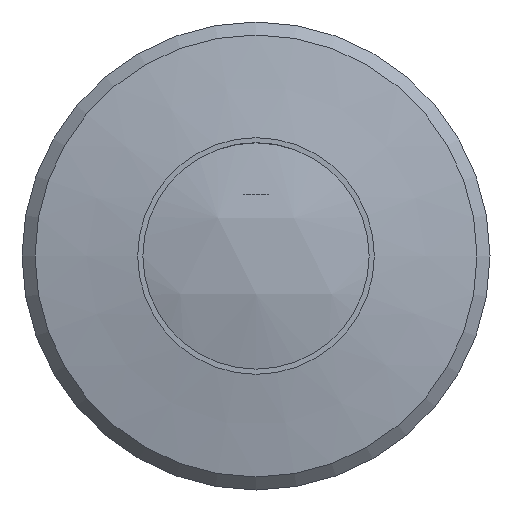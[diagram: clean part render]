
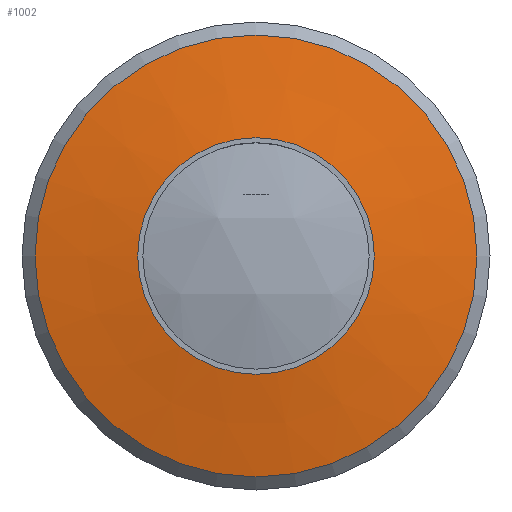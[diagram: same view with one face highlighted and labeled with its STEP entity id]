
A CAD part, left-side view. The second image highlights one B-rep face of the part: STEP entity #1002.
In plain terms, the highlighted conical face has half-angle 80 degrees and reference radius 6.525 mm.
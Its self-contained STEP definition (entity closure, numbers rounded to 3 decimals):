
#975=CARTESIAN_POINT('',(-1.152,0.,0.0));
#976=DIRECTION('',(1.0,0.,0.0));
#977=DIRECTION('',(0.0,1.0,0.0));
#978=AXIS2_PLACEMENT_3D('',#975,#976,#977);
#979=CONICAL_SURFACE('',#978,6.525,80.);
#980=CARTESIAN_POINT('',(-0.804,8.5,0.0));
#981=VERTEX_POINT('',#980);
#982=CARTESIAN_POINT('',(-0.804,0.,0.0));
#983=DIRECTION('',(1.0,0.0,0.0));
#984=DIRECTION('',(0.0,1.0,0.0));
#985=AXIS2_PLACEMENT_3D('',#982,#983,#984);
#986=CIRCLE('',#985,8.5);
#987=EDGE_CURVE('',#981,#981,#986,.T.);
#988=ORIENTED_EDGE('',*,*,#987,.F.);
#989=EDGE_LOOP('',(#988));
#990=FACE_OUTER_BOUND('',#989,.T.);
#991=CARTESIAN_POINT('',(-1.5,4.55,0.0));
#992=VERTEX_POINT('',#991);
#993=CARTESIAN_POINT('',(-1.5,0.,0.0));
#994=DIRECTION('',(1.0,0.0,0.0));
#995=DIRECTION('',(0.0,1.0,0.0));
#996=AXIS2_PLACEMENT_3D('',#993,#994,#995);
#997=CIRCLE('',#996,4.55);
#998=EDGE_CURVE('',#992,#992,#997,.T.);
#999=ORIENTED_EDGE('',*,*,#998,.T.);
#1000=EDGE_LOOP('',(#999));
#1001=FACE_BOUND('',#1000,.T.);
#1002=ADVANCED_FACE('',(#990,#1001),#979,.T.);
